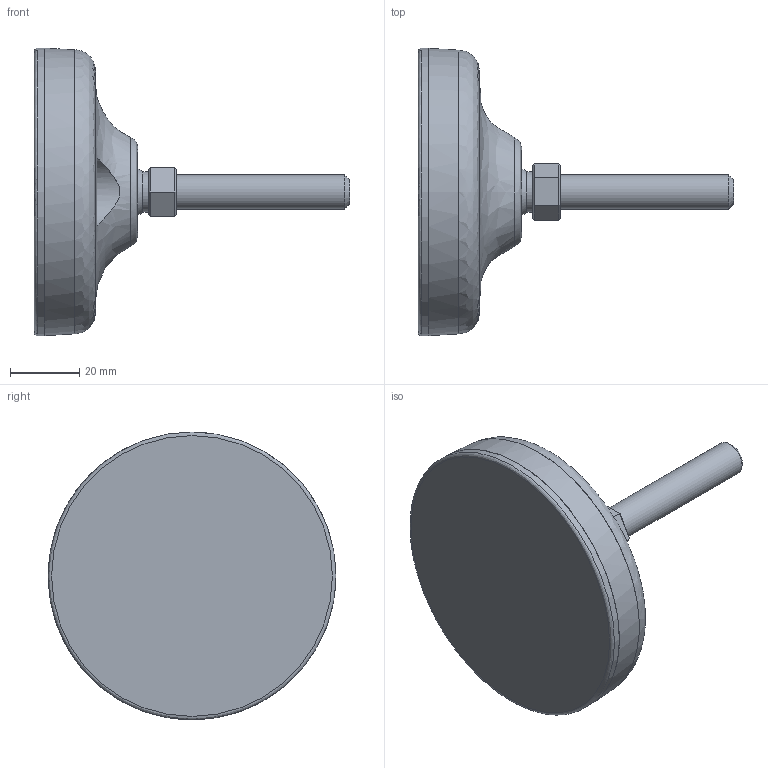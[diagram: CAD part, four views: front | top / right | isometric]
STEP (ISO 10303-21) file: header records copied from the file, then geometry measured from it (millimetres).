
FILE_DESCRIPTION(('STEP AP203'),'2;1');
FILE_NAME('10295-10.stp','2016-09-02T10:05:34',(''),(''),'2008.1.107','THINKDESIGN','');
FILE_SCHEMA(('CONFIG_CONTROL_DESIGN'));
Length unit declared in the file: millimetre
Bounding box: 91 x 83 x 83 mm (x, y, z)
Volume: 21417.3 mm3; surface area: 28353.5 mm2
Topology: 2 solids, 2 shells, 42 faces, 102 edges, 69 vertices
Faces by surface type: bspline 19, plane 18, cylinder 5
Full cylindrical faces by diameter (mm): 10 x1, 11.64 x1, 83 x1
Entity records: 1991 total; most frequent: CARTESIAN_POINT 1038, DIRECTION 153, ORIENTED_EDGE 116, EDGE_CURVE 58, AXIS2_PLACEMENT_3D 52, VECTOR 49, LINE 49, COMPOSITE_CURVE_SEGMENT 44
